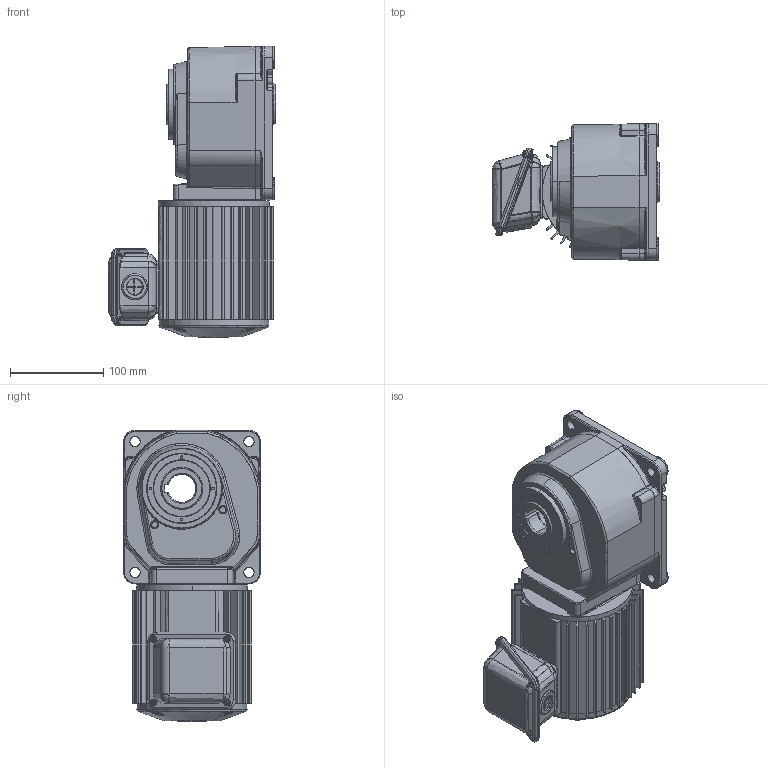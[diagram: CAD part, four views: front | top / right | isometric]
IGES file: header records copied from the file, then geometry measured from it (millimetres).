
Start section: SolidWorks IGES file using analytic representation for surfaces
Global section: file name: \\100.100.100.8\1_共有作業フォルダ\1-5_３Ｄデータ\solidworks\personal-folder\H.Nagayama\HF外形\HF\sldasm\TMHF-02-(5~240).IGS; native system: SolidWorks 2018; preprocessor: SolidWorks 2018; author: sigma-giken; date: 200219.162739; units: millimetre
Bounding box: 179.02 x 146.35 x 312.17 mm (x, y, z)
Surface area: 401020.1 mm2 (no closed solid volume)
Topology: 0 solids, 0 shells, 1550 faces, 18850 edges, 18808 vertices
Faces by surface type: revolution 779, bspline 771
